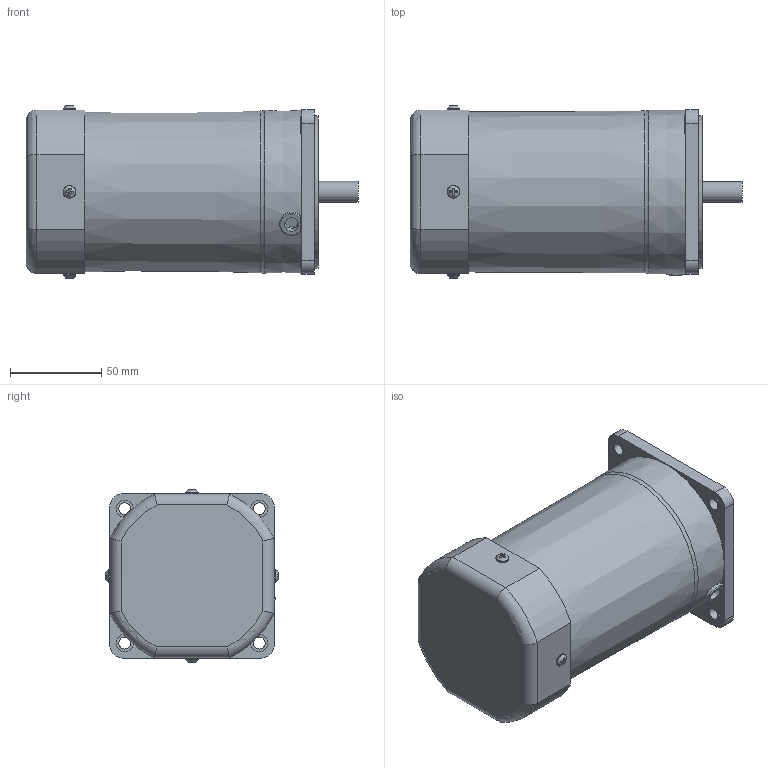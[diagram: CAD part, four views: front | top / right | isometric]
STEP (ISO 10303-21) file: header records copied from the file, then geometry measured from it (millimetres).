
FILE_DESCRIPTION((''),'2;1');
FILE_NAME('\\Spgrnd02\고객배포용도면\3D\01 Standard AC Motor\01 INDUCTION MOTOR\S9I180+S9KH\S9I180G.stp','2015-03-24T19:33:53',('smkim'),(''),'Autodesk Inventor 2012','Autodesk Inventor 2012','');
FILE_SCHEMA(('AUTOMOTIVE_DESIGN { 1 0 10303 214 1 1 1 1 }'));
Length unit declared in the file: millimetre
Products named in the file (1): S9I180G
Bounding box: 181.6 x 94.79 x 94.75 mm (x, y, z)
Volume: 1004700.4 mm3; surface area: 67112.8 mm2
Topology: 1 solids, 4 shells, 172 faces, 424 edges, 276 vertices
Faces by surface type: plane 103, cylinder 45, torus 14, cone 6, bspline 4
Full cylindrical faces by diameter (mm): 4 x4, 6.5 x4, 7 x4, 8 x1, 9.5 x4, 10 x1, 11.5 x1, 40 x1, 83.5 x1
Entity records: 5386 total; most frequent: CARTESIAN_POINT 1372, DIRECTION 752, ORIENTED_EDGE 738, EDGE_CURVE 369, AXIS2_PLACEMENT_3D 275, VERTEX_POINT 262, EDGE_LOOP 243, VECTOR 202
